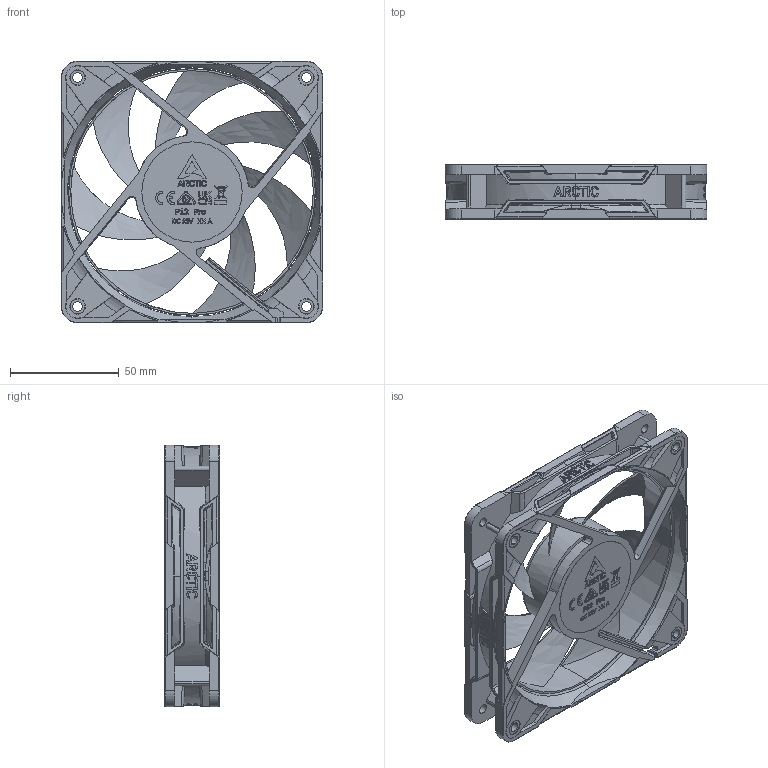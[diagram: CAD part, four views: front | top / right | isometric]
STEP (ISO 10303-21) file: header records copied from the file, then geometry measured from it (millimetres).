
FILE_DESCRIPTION (( 'STEP AP214' ), '1' );
FILE_NAME ('P12 PRO 3D Reference Model .STEP', '2025-05-22T04:03:47', ( '' ), ( '' ), 'SwSTEP 2.0', 'SolidWorks 2024', '' );
FILE_SCHEMA (( 'AUTOMOTIVE_DESIGN' ));
Length unit declared in the file: millimetre
Products named in the file (5): P12 PRO Fan Frame_online version_ARGB 2 Cable Insert; P12 PRO 3D Reference Model ; P12 PRO Rubber Pad; P12 PRO Impeller_online_52hub; Impeller logo sticker
Assembly tree (11 placements, depth 2):
  P12 PRO 3D Reference Model 
    P12 PRO Rubber Pad  x8
    Impeller logo sticker
    P12 PRO Impeller_online_52hub
    P12 PRO Fan Frame_online version_ARGB 2 Cable Insert
Bounding box: 120 x 25.4 x 120 mm (x, y, z)
Volume: 73956.3 mm3; surface area: 84986.2 mm2
Topology: 11 solids, 11 shells, 2189 faces, 6022 edges, 3955 vertices
Faces by surface type: plane 1017, bspline 646, cylinder 362, cone 107, torus 57
Entity records: 80839 total; most frequent: CARTESIAN_POINT 32543, ORIENTED_EDGE 11706, DIRECTION 7451, EDGE_CURVE 5853, VERTEX_POINT 3843, LINE 2971, VECTOR 2971, EDGE_LOOP 2260
